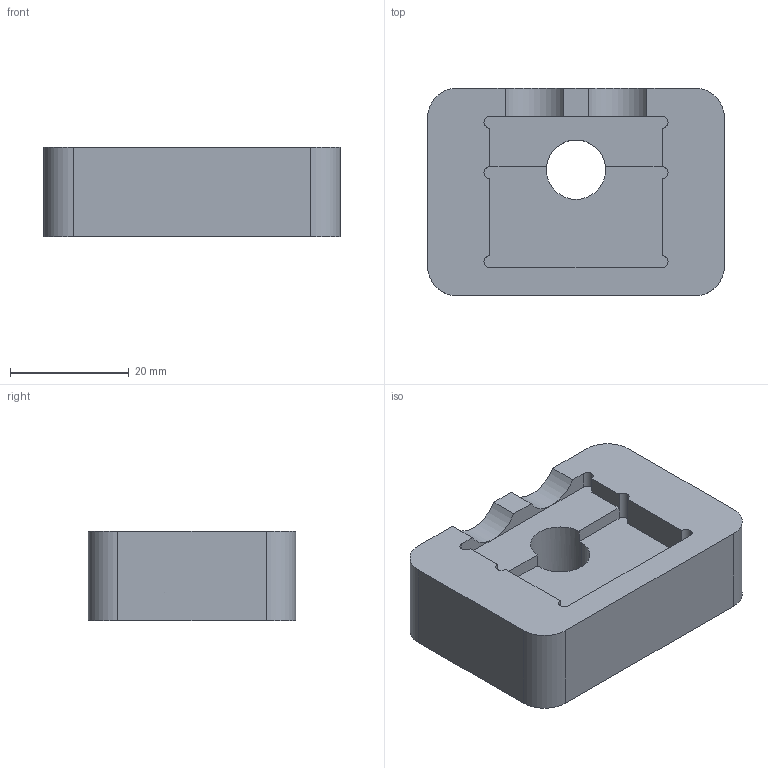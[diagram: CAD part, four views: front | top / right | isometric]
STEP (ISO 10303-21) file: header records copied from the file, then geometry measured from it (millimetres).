
FILE_DESCRIPTION(('CATIA V5 STEP Exchange'),'2;1');
FILE_NAME('D:\姚明阳\1、工装图纸\2、腰托阀（开关）治具工装 -2022.11.26更新\AGZL04 气嘴螺装治具\AGZL04 设计文件（可编辑版）\AGZL04.02_V2.stp','2023-09-07T05:35:54+00:00',('none'),('none'),'CATIA Version 5 Release 21 GA (IN-10)','CATIA V5 STEP AP214','none');
FILE_SCHEMA(('AUTOMOTIVE_DESIGN { 1 0 10303 214 1 1 1 1 }'));
Length unit declared in the file: millimetre
Products named in the file (1): Part2
Bounding box: 50 x 35 x 15 mm (x, y, z)
Volume: 21364.3 mm3; surface area: 6925.5 mm2
Topology: 1 solids, 1 shells, 51 faces, 134 edges, 88 vertices
Faces by surface type: cylinder 28, plane 23
Entity records: 1457 total; most frequent: ORIENTED_EDGE 268, CARTESIAN_POINT 253, DIRECTION 194, EDGE_CURVE 134, AXIS2_PLACEMENT_3D 91, VERTEX_POINT 88, VECTOR 74, LINE 74
